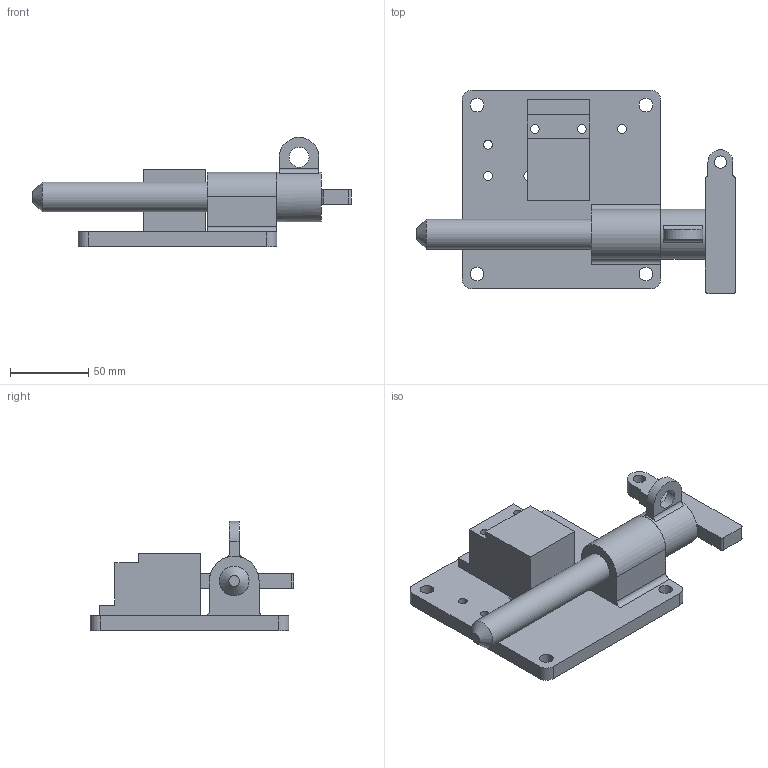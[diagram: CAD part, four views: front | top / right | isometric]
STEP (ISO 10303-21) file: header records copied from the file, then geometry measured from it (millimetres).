
FILE_DESCRIPTION(/* description */ (''),/* implementation_level */ '2;1');
FILE_NAME(/* name */ 'C:\Users\rcarver\Desktop\Tru-LOK pin\GM\With Switch\SP19Y150TR00200.stp',/* time_stamp */ '2016-06-24T13:27:24-04:00',/* author */ ('rcarver'),/* organization */ (''),/* preprocessor_version */ 'ST-DEVELOPER v16.5',/* originating_system */ 'Autodesk Inventor 2017',/* authorisation */ '');
FILE_SCHEMA (('CONFIG_CONTROL_DESIGN','AUTOMOTIVE_DESIGN { 1 0 10303 214 3 1 1 }'));
Length unit declared in the file: millimetre
Products named in the file (1): SP19Y150TR00200
Bounding box: 203.62 x 130.18 x 69.85 mm (x, y, z)
Volume: 355507.4 mm3; surface area: 73862.3 mm2
Topology: 3 solids, 3 shells, 69 faces, 192 edges, 131 vertices
Faces by surface type: plane 37, cylinder 31, cone 1
Full cylindrical faces by diameter (mm): 5.588 x2, 5.59 x6, 7.94 x1, 8.74 x4, 12.7 x1, 19 x1, 31.75 x1
Entity records: 2178 total; most frequent: DIRECTION 368, CARTESIAN_POINT 346, ORIENTED_EDGE 320, EDGE_CURVE 160, AXIS2_PLACEMENT_3D 138, EDGE_LOOP 116, VERTEX_POINT 116, LINE 92
